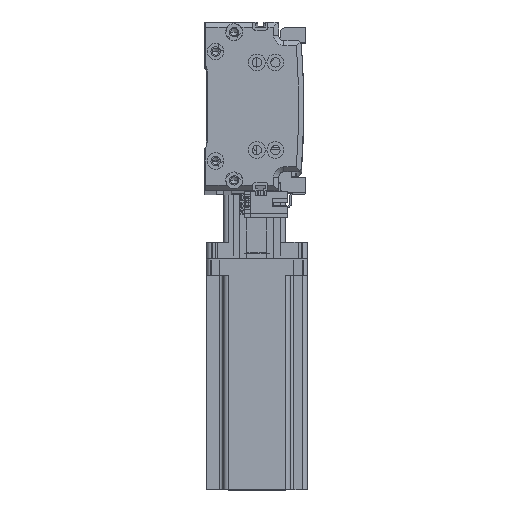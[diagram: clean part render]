
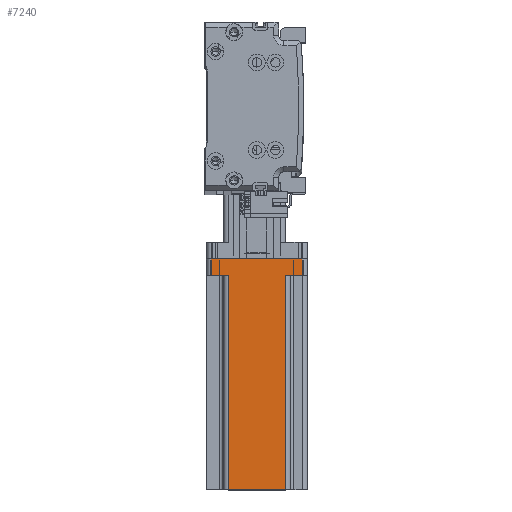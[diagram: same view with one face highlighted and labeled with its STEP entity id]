
A CAD part, top view. The second image highlights one B-rep face of the part: STEP entity #7240.
In plain terms, the highlighted planar face has unit normal (0, 0, 1) as drawn and (0, 1, 0) by its records, which use the part's own axes.
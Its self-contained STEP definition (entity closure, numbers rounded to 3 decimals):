
#903 = VERTEX_POINT ( 'NONE', #9684 ) ;
#1018 = CARTESIAN_POINT ( 'NONE',  ( 27., 30., 137. ) ) ;
#2383 = VERTEX_POINT ( 'NONE', #24570 ) ;
#2392 = LINE ( 'NONE', #32475, #26908 ) ;
#4189 = VECTOR ( 'NONE', #14508, 1000. ) ;
#4700 = CARTESIAN_POINT ( 'NONE',  ( -27., 30., 0. ) ) ;
#7240 = ADVANCED_FACE ( 'NONE', ( #57992 ), #13711, .F. ) ;
#8825 = ORIENTED_EDGE ( 'NONE', *, *, #43014, .T. ) ;
#9684 = CARTESIAN_POINT ( 'NONE',  ( -27., 30., 10. ) ) ;
#10649 = DIRECTION ( 'NONE',  ( -1., 0., 0. ) ) ;
#11220 = CARTESIAN_POINT ( 'NONE',  ( 27., 30., 10. ) ) ;
#11381 = VERTEX_POINT ( 'NONE', #56150 ) ;
#11918 = VECTOR ( 'NONE', #39622, 1000. ) ;
#12556 = VECTOR ( 'NONE', #50934, 1000. ) ;
#13044 = EDGE_CURVE ( 'NONE', #11381, #18153, #14293, .T. ) ;
#13094 = CARTESIAN_POINT ( 'NONE',  ( 17., 30., 137. ) ) ;
#13299 = LINE ( 'NONE', #48519, #11918 ) ;
#13711 = PLANE ( 'NONE',  #49867 ) ;
#14293 = LINE ( 'NONE', #13094, #24770 ) ;
#14451 = VECTOR ( 'NONE', #10649, 1000. ) ;
#14508 = DIRECTION ( 'NONE',  ( 0., 0., -1. ) ) ;
#15003 = CARTESIAN_POINT ( 'NONE',  ( -20., 30., 10. ) ) ;
#15328 = VERTEX_POINT ( 'NONE', #11220 ) ;
#15631 = VERTEX_POINT ( 'NONE', #4700 ) ;
#17607 = DIRECTION ( 'NONE',  ( 0., 0., -1. ) ) ;
#18153 = VERTEX_POINT ( 'NONE', #31824 ) ;
#18409 = DIRECTION ( 'NONE',  ( 0., -1., 0. ) ) ;
#19955 = VECTOR ( 'NONE', #28920, 1000. ) ;
#21320 = EDGE_LOOP ( 'NONE', ( #45456, #47514, #53436, #49191, #31805, #48085, #36251, #8825 ) ) ;
#21329 = LINE ( 'NONE', #42327, #19955 ) ;
#21701 = LINE ( 'NONE', #1018, #4189 ) ;
#21718 = EDGE_CURVE ( 'NONE', #15328, #30881, #21701, .T. ) ;
#21852 = CARTESIAN_POINT ( 'NONE',  ( 30., 30., 137. ) ) ;
#22308 = CARTESIAN_POINT ( 'NONE',  ( -17., 30., 10. ) ) ;
#23733 = LINE ( 'NONE', #21852, #56781 ) ;
#24196 = EDGE_CURVE ( 'NONE', #37664, #2383, #21329, .T. ) ;
#24570 = CARTESIAN_POINT ( 'NONE',  ( -17., 30., 137. ) ) ;
#24770 = VECTOR ( 'NONE', #17607, 1000. ) ;
#26359 = DIRECTION ( 'NONE',  ( -1., 0., 0. ) ) ;
#26908 = VECTOR ( 'NONE', #41328, 1000. ) ;
#28805 = CARTESIAN_POINT ( 'NONE',  ( 20., 30., 10. ) ) ;
#28920 = DIRECTION ( 'NONE',  ( 0., 0., 1. ) ) ;
#29085 = EDGE_CURVE ( 'NONE', #15328, #18153, #38290, .T. ) ;
#30881 = VERTEX_POINT ( 'NONE', #57142 ) ;
#31805 = ORIENTED_EDGE ( 'NONE', *, *, #29085, .F. ) ;
#31824 = CARTESIAN_POINT ( 'NONE',  ( 17., 30., 10. ) ) ;
#32475 = CARTESIAN_POINT ( 'NONE',  ( 30., 30., 0. ) ) ;
#34575 = EDGE_CURVE ( 'NONE', #903, #37664, #48382, .T. ) ;
#36251 = ORIENTED_EDGE ( 'NONE', *, *, #49078, .T. ) ;
#37664 = VERTEX_POINT ( 'NONE', #22308 ) ;
#38290 = LINE ( 'NONE', #28805, #14451 ) ;
#39622 = DIRECTION ( 'NONE',  ( 0., 0., 1. ) ) ;
#41328 = DIRECTION ( 'NONE',  ( -1., 0., 0. ) ) ;
#42327 = CARTESIAN_POINT ( 'NONE',  ( -17., 30., 137. ) ) ;
#43014 = EDGE_CURVE ( 'NONE', #15631, #903, #13299, .T. ) ;
#45354 = CARTESIAN_POINT ( 'NONE',  ( 30., 30., 137. ) ) ;
#45456 = ORIENTED_EDGE ( 'NONE', *, *, #34575, .T. ) ;
#46185 = EDGE_CURVE ( 'NONE', #11381, #2383, #23733, .T. ) ;
#47514 = ORIENTED_EDGE ( 'NONE', *, *, #24196, .T. ) ;
#48085 = ORIENTED_EDGE ( 'NONE', *, *, #21718, .T. ) ;
#48382 = LINE ( 'NONE', #15003, #12556 ) ;
#48519 = CARTESIAN_POINT ( 'NONE',  ( -27., 30., 137. ) ) ;
#49078 = EDGE_CURVE ( 'NONE', #30881, #15631, #2392, .T. ) ;
#49191 = ORIENTED_EDGE ( 'NONE', *, *, #13044, .T. ) ;
#49844 = DIRECTION ( 'NONE',  ( 1., 0., 0. ) ) ;
#49867 = AXIS2_PLACEMENT_3D ( 'NONE', #45354, #18409, #49844 ) ;
#50934 = DIRECTION ( 'NONE',  ( 1., 0., 0. ) ) ;
#53436 = ORIENTED_EDGE ( 'NONE', *, *, #46185, .F. ) ;
#56150 = CARTESIAN_POINT ( 'NONE',  ( 17., 30., 137. ) ) ;
#56781 = VECTOR ( 'NONE', #26359, 1000. ) ;
#57142 = CARTESIAN_POINT ( 'NONE',  ( 27., 30., 0. ) ) ;
#57992 = FACE_OUTER_BOUND ( 'NONE', #21320, .T. ) ;
